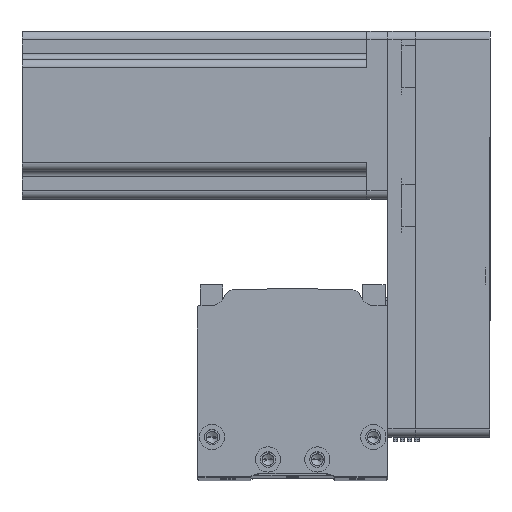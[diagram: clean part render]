
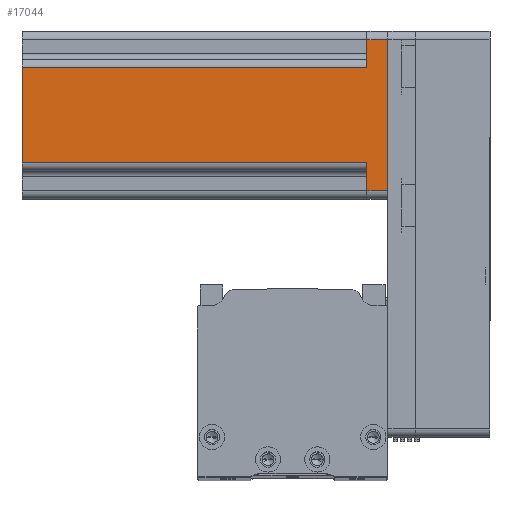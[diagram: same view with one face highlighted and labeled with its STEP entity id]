
A CAD part, top view. The second image highlights one B-rep face of the part: STEP entity #17044.
In plain terms, the highlighted planar face has unit normal (0, 0, 1) as drawn and (0, -1, 0) by its records, which use the part's own axes.
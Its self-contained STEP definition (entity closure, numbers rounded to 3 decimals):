
#229 = EDGE_CURVE ( 'NONE', #30007, #34064, #642, .T. ) ;
#601 = CARTESIAN_POINT ( 'NONE',  ( 17., -30., 130.7 ) ) ;
#642 = LINE ( 'NONE', #12449, #19549 ) ;
#892 = CARTESIAN_POINT ( 'NONE',  ( 27., -30., 130.7 ) ) ;
#1121 = CARTESIAN_POINT ( 'NONE',  ( 27., -30., 0. ) ) ;
#1981 = VERTEX_POINT ( 'NONE', #30109 ) ;
#2715 = VECTOR ( 'NONE', #16678, 1000. ) ;
#4129 = EDGE_LOOP ( 'NONE', ( #34889, #24826, #24246, #22545, #26421, #22314, #31201, #11151 ) ) ;
#4447 = EDGE_CURVE ( 'NONE', #42685, #34496, #18044, .T. ) ;
#6091 = CARTESIAN_POINT ( 'NONE',  ( 30., -30., 130.7 ) ) ;
#6846 = DIRECTION ( 'NONE',  ( 1., 0., 0. ) ) ;
#8554 = VECTOR ( 'NONE', #44438, 1000. ) ;
#9041 = VECTOR ( 'NONE', #6846, 1000. ) ;
#9647 = DIRECTION ( 'NONE',  ( 1., 0., 0. ) ) ;
#10261 = LINE ( 'NONE', #42675, #36459 ) ;
#10905 = DIRECTION ( 'NONE',  ( 1., 0., 0. ) ) ;
#11151 = ORIENTED_EDGE ( 'NONE', *, *, #4447, .T. ) ;
#11981 = DIRECTION ( 'NONE',  ( 0., 0., -1. ) ) ;
#12374 = CARTESIAN_POINT ( 'NONE',  ( 17., -30., 130.7 ) ) ;
#12449 = CARTESIAN_POINT ( 'NONE',  ( -17., -30., 130.7 ) ) ;
#13253 = LINE ( 'NONE', #27240, #2715 ) ;
#15894 = FACE_OUTER_BOUND ( 'NONE', #4129, .T. ) ;
#16311 = EDGE_CURVE ( 'NONE', #1981, #42685, #13253, .T. ) ;
#16678 = DIRECTION ( 'NONE',  ( -1., 0., 0. ) ) ;
#17044 = ADVANCED_FACE ( 'NONE', ( #15894 ), #39957, .F. ) ;
#17916 = VERTEX_POINT ( 'NONE', #24518 ) ;
#18044 = LINE ( 'NONE', #12374, #8554 ) ;
#18340 = CARTESIAN_POINT ( 'NONE',  ( -17., -30., 130.7 ) ) ;
#18557 = LINE ( 'NONE', #35320, #9041 ) ;
#18778 = DIRECTION ( 'NONE',  ( 0., 1., 0. ) ) ;
#19162 = CARTESIAN_POINT ( 'NONE',  ( -27., -30., 130.7 ) ) ;
#19206 = AXIS2_PLACEMENT_3D ( 'NONE', #40097, #18778, #43687 ) ;
#19549 = VECTOR ( 'NONE', #21568, 1000. ) ;
#20991 = EDGE_CURVE ( 'NONE', #29686, #1981, #30103, .T. ) ;
#21568 = DIRECTION ( 'NONE',  ( 0., 0., -1. ) ) ;
#22179 = DIRECTION ( 'NONE',  ( 0., 0., 1. ) ) ;
#22314 = ORIENTED_EDGE ( 'NONE', *, *, #20991, .T. ) ;
#22545 = ORIENTED_EDGE ( 'NONE', *, *, #28100, .T. ) ;
#24246 = ORIENTED_EDGE ( 'NONE', *, *, #41743, .F. ) ;
#24518 = CARTESIAN_POINT ( 'NONE',  ( -27., -30., 7.5 ) ) ;
#24826 = ORIENTED_EDGE ( 'NONE', *, *, #229, .T. ) ;
#25460 = EDGE_CURVE ( 'NONE', #30007, #34496, #40448, .T. ) ;
#26421 = ORIENTED_EDGE ( 'NONE', *, *, #31646, .T. ) ;
#27240 = CARTESIAN_POINT ( 'NONE',  ( 20., -30., 7.5 ) ) ;
#28100 = EDGE_CURVE ( 'NONE', #17916, #33260, #29272, .T. ) ;
#28989 = VECTOR ( 'NONE', #22179, 1000. ) ;
#29272 = LINE ( 'NONE', #19162, #37648 ) ;
#29686 = VERTEX_POINT ( 'NONE', #1121 ) ;
#30007 = VERTEX_POINT ( 'NONE', #18340 ) ;
#30103 = LINE ( 'NONE', #892, #28989 ) ;
#30109 = CARTESIAN_POINT ( 'NONE',  ( 27., -30., 7.5 ) ) ;
#30250 = CARTESIAN_POINT ( 'NONE',  ( 17., -30., 7.5 ) ) ;
#30955 = VECTOR ( 'NONE', #9647, 1000. ) ;
#31201 = ORIENTED_EDGE ( 'NONE', *, *, #16311, .T. ) ;
#31646 = EDGE_CURVE ( 'NONE', #33260, #29686, #18557, .T. ) ;
#33260 = VERTEX_POINT ( 'NONE', #36011 ) ;
#34064 = VERTEX_POINT ( 'NONE', #43577 ) ;
#34496 = VERTEX_POINT ( 'NONE', #601 ) ;
#34889 = ORIENTED_EDGE ( 'NONE', *, *, #25460, .F. ) ;
#35320 = CARTESIAN_POINT ( 'NONE',  ( 30., -30., 0. ) ) ;
#36011 = CARTESIAN_POINT ( 'NONE',  ( -27., -30., 0. ) ) ;
#36459 = VECTOR ( 'NONE', #10905, 1000. ) ;
#37648 = VECTOR ( 'NONE', #11981, 1000. ) ;
#39957 = PLANE ( 'NONE',  #19206 ) ;
#40097 = CARTESIAN_POINT ( 'NONE',  ( 30., -30., 130.7 ) ) ;
#40448 = LINE ( 'NONE', #6091, #30955 ) ;
#41743 = EDGE_CURVE ( 'NONE', #17916, #34064, #10261, .T. ) ;
#42675 = CARTESIAN_POINT ( 'NONE',  ( -20., -30., 7.5 ) ) ;
#42685 = VERTEX_POINT ( 'NONE', #30250 ) ;
#43577 = CARTESIAN_POINT ( 'NONE',  ( -17., -30., 7.5 ) ) ;
#43687 = DIRECTION ( 'NONE',  ( -1., 0., 0. ) ) ;
#44438 = DIRECTION ( 'NONE',  ( 0., 0., 1. ) ) ;
